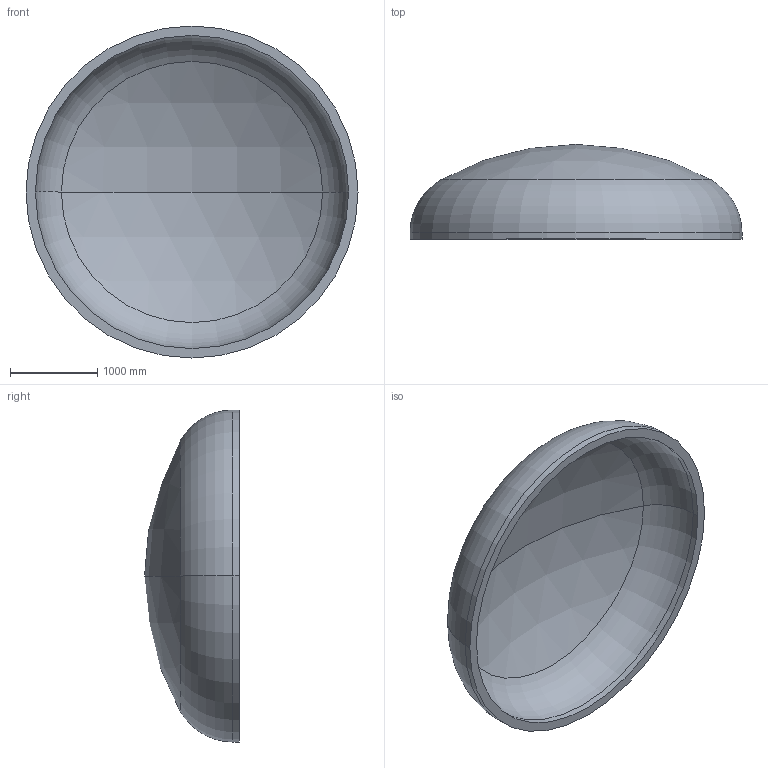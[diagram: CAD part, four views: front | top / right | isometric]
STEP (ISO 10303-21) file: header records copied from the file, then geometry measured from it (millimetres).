
FILE_DESCRIPTION (( 'STEP AP203' ), '1' );
FILE_NAME ('DIN 28013 Korbbogenform_-_Boden DIN 28013 - 3800 x 75 - I - s=108.step', '2016-07-01T21:51:03', ( '' ), ( '' ), 'SwSTEP 2.0', 'SolidWorks 2013', '' );
FILE_SCHEMA (( 'CONFIG_CONTROL_DESIGN' ));
Length unit declared in the file: millimetre
Products named in the file (1): DIN 28013 Korbbogenform_-_Boden DIN 28013 - 3800 x 75 - I - s=108
Bounding box: 3800 x 1085.2 x 3800 mm (x, y, z)
Volume: 1728321015.7 mm3; surface area: 33283028.8 mm2
Topology: 1 solids, 1 shells, 13 faces, 24 edges, 14 vertices
Faces by surface type: torus 4, cylinder 4, sphere 4, plane 1
Entity records: 407 total; most frequent: DIRECTION 72, CARTESIAN_POINT 52, ORIENTED_EDGE 48, AXIS2_PLACEMENT_3D 34, EDGE_CURVE 24, CIRCLE 20, EDGE_LOOP 14, VERTEX_POINT 14
